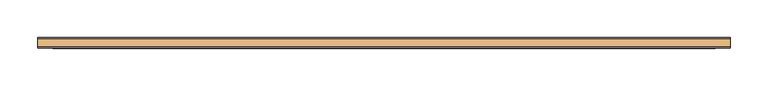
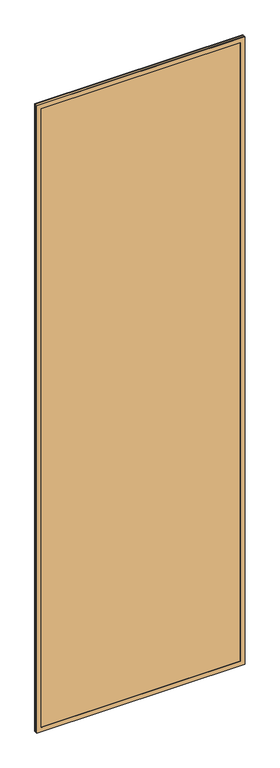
"""IFC4 building model written with IfcOpenShell, lengths in millimetres: door geometry, 32_IM_deurpaneel_CF : 32_IM_deurpaneel_R_CF_1x4."""

from ifc_helpers import new_model, si_unit, frame, origin, place, context, project, spatial, polyline, outline, extrude, faceted_brep, source, transform, mapped, element, save


def door_98ff0f37(model_context):
    return source(origin(), model_context, "Body", "SolidModel", [
        extrude(outline(polyline([(460.0, -5.0), (-460.0, -5.0), (-460.0, 5.0), (460.0, 5.0), (460.0, -5.0)])), frame((0.0, 0.0, 10.0), z_axis=(0.0, 0.0, 1.0), x_axis=(1.0, 0.0, 0.0)), (0.0, 0.0, 1.0), 2927.0),
        faceted_brep([(460.0, 7.0, 2937.0), (460.0, -7.0, 2937.0), (460.0, -7.0, 10.0), (460.0, 7.0, 10.0), (-460.0, -7.0, 2937.0), (-460.0, -7.0, 10.0), (440.0, -7.0, 30.0), (-440.0, -7.0, 30.0), (-440.0, -7.0, 2917.0), (440.0, -7.0, 2917.0), (-460.0, 7.0, 10.0), (-460.0, 7.0, 2937.0), (440.0, 7.0, 2917.0), (-440.0, 7.0, 2917.0), (-440.0, 7.0, 30.0), (440.0, 7.0, 30.0), (440.0, 5.0, 2917.0), (440.0, 5.0, 30.0), (-440.0, 5.0, 30.0), (458.0, 5.0, 2935.0), (-458.0, 5.0, 2935.0), (-458.0, 5.0, 12.0), (458.0, 5.0, 12.0), (-440.0, 5.0, 2917.0), (458.0, -5.0, 2935.0), (458.0, -5.0, 12.0), (-458.0, -5.0, 12.0), (-458.0, -5.0, 2935.0), (440.0, -5.0, 2917.0), (-440.0, -5.0, 2917.0), (-440.0, -5.0, 30.0), (440.0, -5.0, 30.0)], [[[0, 1, 2, 3]], [[1, 4, 5, 2], [6, 7, 8, 9]], [[3, 2, 5, 10]], [[3, 10, 11, 0], [12, 13, 14, 15]], [[16, 12, 15, 17]], [[17, 15, 14, 18]], [[19, 20, 21, 22], [17, 18, 23, 16]], [[24, 19, 22, 25]], [[25, 22, 21, 26]], [[25, 26, 27, 24], [28, 29, 30, 31]], [[9, 28, 31, 6]], [[6, 31, 30, 7]], [[10, 5, 4, 11]], [[18, 14, 13, 23]], [[26, 21, 20, 27]], [[7, 30, 29, 8]], [[11, 4, 1, 0]], [[23, 13, 12, 16]], [[27, 20, 19, 24]], [[8, 29, 28, 9]]]),
    ])


if __name__ == "__main__":
    model = new_model("IFC4")
    model_context = context("Model", 3, world=origin())
    ifc_project = project(units=[si_unit("LENGTHUNIT", "METRE", prefix="MILLI")], contexts=[model_context])
    site = spatial("IfcSite", under=ifc_project)
    building = spatial("IfcBuilding", under=site)
    placement = place(None, origin())
    door_shape = door_98ff0f37(model_context)
    element("IfcDoor", 1, ObjectType="32_IM_deurpaneel_CF : 32_IM_deurpaneel_R_CF_1x4", at=placement, inside=building, context=model_context, shape_type="MappedRepresentation", body=[
        mapped(door_shape, transform((0.0, 0.0, 0.0), x_axis=(1.0, 0.0, 0.0), y_axis=(0.0, 1.0, 0.0), z_axis=(0.0, 0.0, 1.0))),
    ])
    save(model, "model.ifc")
